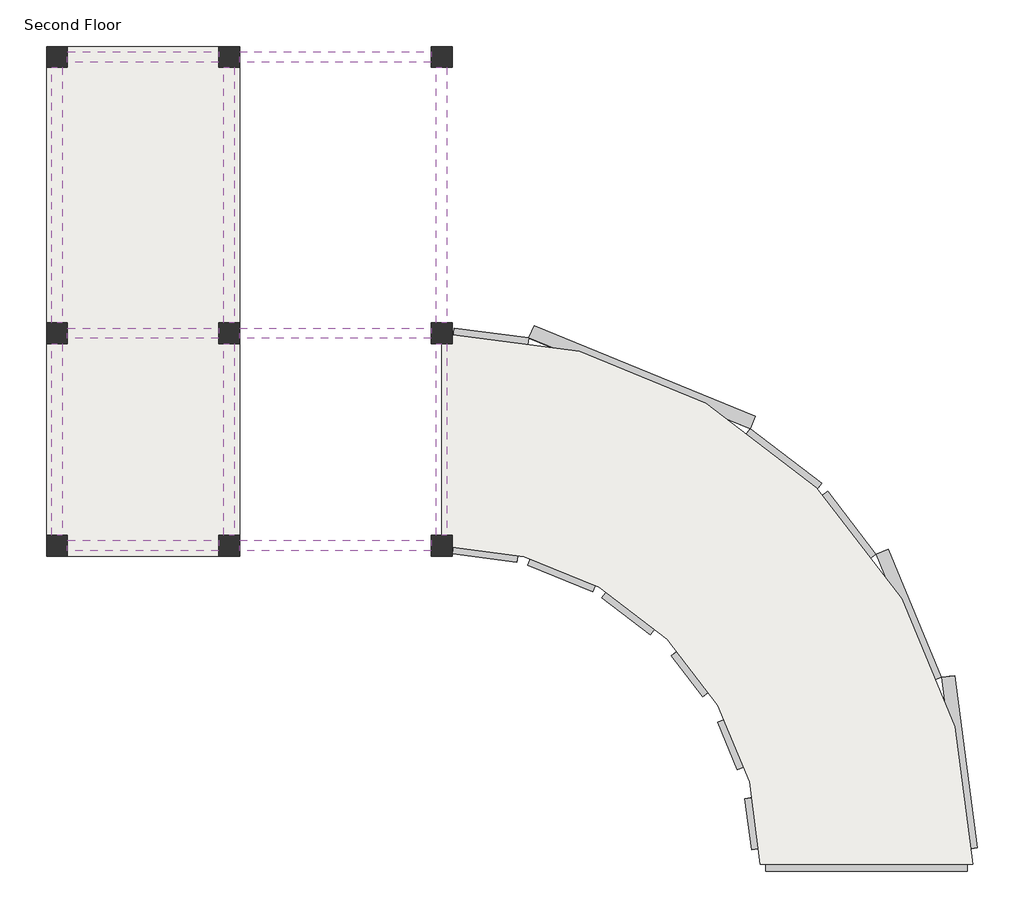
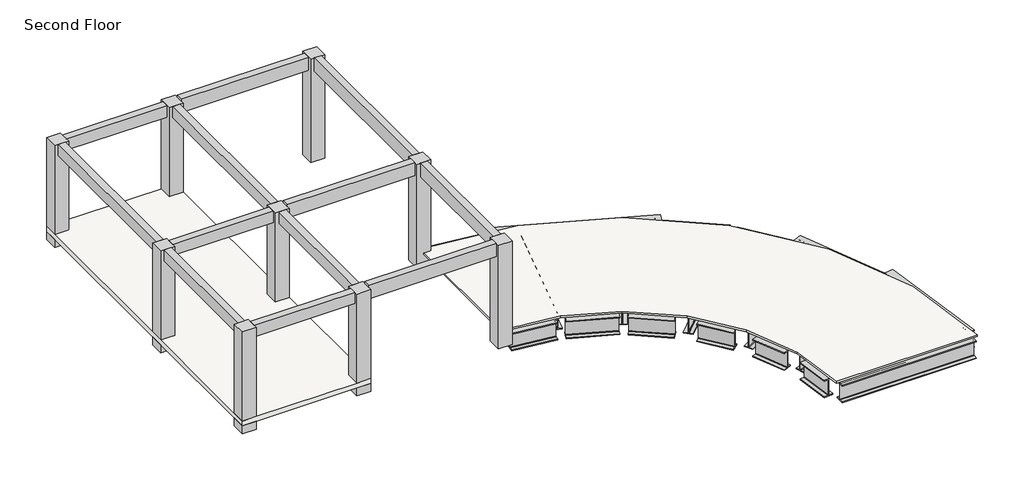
# One storey: 32 beams, 9 columns, 2 slabs.
"""IFC4 building model written with IfcOpenShell, lengths in millimetres."""

from ifc_helpers import new_model, si_unit, frame, origin, place, context, project, spatial, polyline, outline, extrude, faceted_brep, transform, mapped, element, save
from components import w760x350_97f56e91, w760x350_bd663f35, w760x350_76114712, w760x350_95a3d9c9, w760x350_c93c339d, w760x350_c870c244, w760x350_12c19f72, w760x350_7ec89315, w760x350_d8cf7d22, w760x350_981adb13, w760x350_85be410d, w760x350_863436a1, w760x350_0a7047ff, w760x350_eb8f40b6, w760x350_f451a6df, w760x350_05c1157e

model = new_model("IFC4")

# Units and contexts
model_context = context("Model", 3, world=origin())
ifc_project = project(units=[si_unit("LENGTHUNIT", "METRE", prefix="MILLI")], contexts=[model_context])

# Site, building, storey
site = spatial("IfcSite", under=ifc_project)
building = spatial("IfcBuilding", under=site)
storey = spatial("IfcBuildingStorey", under=building, Name="Second Floor", Elevation=3048.0)

# Beams
placement = place(None, origin())
element("IfcBeam", 1, ObjectType="M_Concrete-Rectangular Beam : 300 x 600mm", at=placement, inside=storey, context=model_context, shape_type="SweptSolid", body=[
    extrude(outline(polyline([(-16304.9035319, 4112.1636035), (-16304.9035319, 4412.1636035), (-10808.9035319, 4412.1636035), (-10808.9035319, 4112.1636035), (-16304.9035319, 4112.1636035)])), frame((0.0, 0.0, 6715.0), z_axis=(0.0, 0.0, 1.0), x_axis=(1.0, 0.0, 0.0)), (0.0, 0.0, 1.0), 600.0),
])
element("IfcBeam", 2, ObjectType="M_Concrete-Rectangular Beam : 300 x 600mm", at=placement, inside=storey, context=model_context, shape_type="SweptSolid", body=[
    extrude(outline(polyline([(-21244.300634, 4112.1636035), (-21244.300634, 4412.1636035), (-16904.9035319, 4412.1636035), (-16904.9035319, 4112.1636035), (-21244.300634, 4112.1636035)])), frame((0.0, 0.0, 6715.0), z_axis=(0.0, 0.0, 1.0), x_axis=(1.0, 0.0, 0.0)), (0.0, 0.0, 1.0), 510.0),
])
element("IfcBeam", 3, ObjectType="M_Concrete-Rectangular Beam : 300 x 600mm", at=placement, inside=storey, context=model_context, shape_type="SweptSolid", body=[
    extrude(outline(polyline([(-16304.9035319, -3812.8363965), (-16304.9035319, -3512.8363965), (-10808.9035319, -3512.8363965), (-10808.9035319, -3812.8363965), (-16304.9035319, -3812.8363965)])), frame((0.0, 0.0, 6715.0), z_axis=(0.0, 0.0, 1.0), x_axis=(1.0, 0.0, 0.0)), (0.0, 0.0, 1.0), 600.0),
])
element("IfcBeam", 4, ObjectType="M_Concrete-Rectangular Beam : 300 x 600mm", at=placement, inside=storey, context=model_context, shape_type="SweptSolid", body=[
    extrude(outline(polyline([(-21244.300634, -3812.8363965), (-21244.300634, -3512.8363965), (-16904.9035319, -3512.8363965), (-16904.9035319, -3812.8363965), (-21244.300634, -3812.8363965)])), frame((0.0, 0.0, 6715.0), z_axis=(0.0, 0.0, 1.0), x_axis=(1.0, 0.0, 0.0)), (0.0, 0.0, 1.0), 510.0),
])
element("IfcBeam", 5, ObjectType="M_Concrete-Rectangular Beam : 300 x 600mm", at=placement, inside=storey, context=model_context, shape_type="SweptSolid", body=[
    extrude(outline(polyline([(-16304.9035319, -9908.8363965), (-16304.9035319, -9608.8363965), (-10808.9035319, -9608.8363965), (-10808.9035319, -9908.8363965), (-16304.9035319, -9908.8363965)])), frame((0.0, 0.0, 6715.0), z_axis=(0.0, 0.0, 1.0), x_axis=(1.0, 0.0, 0.0)), (0.0, 0.0, 1.0), 600.0),
])
element("IfcBeam", 6, ObjectType="M_Concrete-Rectangular Beam : 300 x 600mm", at=placement, inside=storey, context=model_context, shape_type="SweptSolid", body=[
    extrude(outline(polyline([(-21244.300634, -9908.8363965), (-21244.300634, -9608.8363965), (-16904.9035319, -9608.8363965), (-16904.9035319, -9908.8363965), (-21244.300634, -9908.8363965)])), frame((0.0, 0.0, 6715.0), z_axis=(0.0, 0.0, 1.0), x_axis=(1.0, 0.0, 0.0)), (0.0, 0.0, 1.0), 510.0),
])
element("IfcBeam", 7, ObjectType="M_Concrete-Rectangular Beam : 300 x 600mm", at=placement, inside=storey, context=model_context, shape_type="SweptSolid", body=[
    extrude(outline(polyline([(-21394.300634, -3362.8363965), (-21694.300634, -3362.8363965), (-21694.300634, 3962.1636035), (-21394.300634, 3962.1636035), (-21394.300634, -3362.8363965)])), frame((0.0, 0.0, 6715.0), z_axis=(0.0, 0.0, 1.0), x_axis=(1.0, 0.0, 0.0)), (0.0, 0.0, 1.0), 510.0),
])
element("IfcBeam", 8, ObjectType="M_Concrete-Rectangular Beam : 300 x 600mm", at=placement, inside=storey, context=model_context, shape_type="SweptSolid", body=[
    extrude(outline(polyline([(-21394.300634, -9458.8363965), (-21694.300634, -9458.8363965), (-21694.300634, -3962.8363965), (-21394.300634, -3962.8363965), (-21394.300634, -9458.8363965)])), frame((0.0, 0.0, 6715.0), z_axis=(0.0, 0.0, 1.0), x_axis=(1.0, 0.0, 0.0)), (0.0, 0.0, 1.0), 510.0),
])
element("IfcBeam", 9, ObjectType="M_Concrete-Rectangular Beam : 300 x 600mm", at=placement, inside=storey, context=model_context, shape_type="SweptSolid", body=[
    extrude(outline(polyline([(-16454.9035319, -9458.8363965), (-16754.9035319, -9458.8363965), (-16754.9035319, -3962.8363965), (-16454.9035319, -3962.8363965), (-16454.9035319, -9458.8363965)])), frame((0.0, 0.0, 6715.0), z_axis=(0.0, 0.0, 1.0), x_axis=(1.0, 0.0, 0.0)), (0.0, 0.0, 1.0), 510.0),
])
element("IfcBeam", 10, ObjectType="M_Concrete-Rectangular Beam : 300 x 600mm", at=placement, inside=storey, context=model_context, shape_type="SweptSolid", body=[
    extrude(outline(polyline([(-16454.9035319, -3362.8363965), (-16754.9035319, -3362.8363965), (-16754.9035319, 3962.1636035), (-16454.9035319, 3962.1636035), (-16454.9035319, -3362.8363965)])), frame((0.0, 0.0, 6715.0), z_axis=(0.0, 0.0, 1.0), x_axis=(1.0, 0.0, 0.0)), (0.0, 0.0, 1.0), 510.0),
])
element("IfcBeam", 11, ObjectType="M_Concrete-Rectangular Beam : 300 x 600mm", at=placement, inside=storey, context=model_context, shape_type="SweptSolid", body=[
    extrude(outline(polyline([(-10358.9035319, -9458.8363965), (-10658.9035319, -9458.8363965), (-10658.9035319, -3962.8363965), (-10358.9035319, -3962.8363965), (-10358.9035319, -9458.8363965)])), frame((0.0, 0.0, 6715.0), z_axis=(0.0, 0.0, 1.0), x_axis=(1.0, 0.0, 0.0)), (0.0, 0.0, 1.0), 600.0),
])
element("IfcBeam", 12, ObjectType="M_Concrete-Rectangular Beam : 300 x 600mm", at=placement, inside=storey, context=model_context, shape_type="SweptSolid", body=[
    extrude(outline(polyline([(-10358.9035319, -3362.8363965), (-10658.9035319, -3362.8363965), (-10658.9035319, 3962.1636035), (-10358.9035319, 3962.1636035), (-10358.9035319, -3362.8363965)])), frame((0.0, 0.0, 6715.0), z_axis=(0.0, 0.0, 1.0), x_axis=(1.0, 0.0, 0.0)), (0.0, 0.0, 1.0), 600.0),
])
w760x350_shape = w760x350_97f56e91(model_context)
element("IfcBeam", 13, ObjectType="M_W-Wide Flange : W760X350", at=placement, inside=storey, context=model_context, shape_type="MappedRepresentation", body=[
    mapped(w760x350_shape, transform((3450.5648413, -13120.6352728, 2650.5), x_axis=(0.38268343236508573, -0.9238795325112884, 0.0), y_axis=(0.9238795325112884, 0.38268343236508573, 0.0), z_axis=(0.0, 0.0, 1.0))),
])
w760x350_2_shape = w760x350_bd663f35(model_context)
element("IfcBeam", 14, ObjectType="M_W-Wide Flange : W760X350", at=placement, inside=storey, context=model_context, shape_type="MappedRepresentation", body=[
    mapped(w760x350_2_shape, transform((-2853.5481928, -5739.9645819, 2650.5), x_axis=(0.7071067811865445, -0.7071067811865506, 0.0), y_axis=(0.7071067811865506, 0.7071067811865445, 0.0), z_axis=(0.0, 0.0, 1.0))),
])
w760x350_3_shape = w760x350_76114712(model_context)
element("IfcBeam", 15, ObjectType="M_W-Wide Flange : W760X350", at=placement, inside=storey, context=model_context, shape_type="MappedRepresentation", body=[
    mapped(w760x350_3_shape, transform((1478.3637176, -9704.6827239, 2650.5), x_axis=(0.6087614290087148, -0.7933533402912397, 0.0), y_axis=(0.7933533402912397, 0.6087614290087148, 0.0), z_axis=(0.0, 0.0, 1.0))),
])
w760x350_4_shape = w760x350_95a3d9c9(model_context)
element("IfcBeam", 16, ObjectType="M_W-Wide Flange : W760X350", at=placement, inside=storey, context=model_context, shape_type="MappedRepresentation", body=[
    mapped(w760x350_4_shape, transform((-8536.7024082, -3922.4816002, 2650.5), x_axis=(0.9914448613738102, -0.1305261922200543, 0.0), y_axis=(0.1305261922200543, 0.9914448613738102, 0.0), z_axis=(0.0, 0.0, 1.0))),
])
w760x350_5_shape = w760x350_c93c339d(model_context)
element("IfcBeam", 17, ObjectType="M_W-Wide Flange : W760X350", at=placement, inside=storey, context=model_context, shape_type="MappedRepresentation", body=[
    mapped(w760x350_5_shape, transform((-4752.0478576, -4925.7348849, 2650.5), x_axis=(0.9251619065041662, -0.37957271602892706, 0.0), y_axis=(0.37957271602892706, 0.9251619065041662, 0.0), z_axis=(0.0, 0.0, 1.0))),
])
w760x350_6_shape = w760x350_c870c244(model_context)
element("IfcBeam", 18, ObjectType="M_W-Wide Flange : W760X350", at=placement, inside=storey, context=model_context, shape_type="MappedRepresentation", body=[
    mapped(w760x350_6_shape, transform((-1332.8922259, -6893.6419593, 2650.5), x_axis=(0.7953971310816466, -0.6060886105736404, 0.0), y_axis=(0.6060886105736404, 0.7953971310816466, 0.0), z_axis=(0.0, 0.0, 1.0))),
])
w760x350_7_shape = w760x350_12c19f72(model_context)
element("IfcBeam", 19, ObjectType="M_W-Wide Flange : W760X350", at=placement, inside=storey, context=model_context, shape_type="MappedRepresentation", body=[
    mapped(w760x350_7_shape, transform((-5016.7075479, -11695.182511, 2650.5), x_axis=(-0.7953971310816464, 0.6060886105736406, 0.0), y_axis=(-0.6060886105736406, -0.7953971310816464, 0.0), z_axis=(0.0, 0.0, 1.0))),
])
w760x350_8_shape = w760x350_7ec89315(model_context)
element("IfcBeam", 20, ObjectType="M_W-Wide Flange : W760X350", at=placement, inside=storey, context=model_context, shape_type="MappedRepresentation", body=[
    mapped(w760x350_8_shape, transform((-7066.2790773, -10511.8618368, 2650.5), x_axis=(-0.9251619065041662, 0.37957271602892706, 0.0), y_axis=(-0.37957271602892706, -0.9251619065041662, 0.0), z_axis=(0.0, 0.0, 1.0))),
])
w760x350_9_shape = w760x350_d8cf7d22(model_context)
element("IfcBeam", 21, ObjectType="M_W-Wide Flange : W760X350", at=placement, inside=storey, context=model_context, shape_type="MappedRepresentation", body=[
    mapped(w760x350_9_shape, transform((-9325.5828576, -9914.6235187, 2650.5), x_axis=(-0.99144486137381, 0.13052619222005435, 0.0), y_axis=(-0.13052619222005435, -0.99144486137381, 0.0), z_axis=(0.0, 0.0, 1.0))),
])
w760x350_10_shape = w760x350_981adb13(model_context)
element("IfcBeam", 22, ObjectType="M_W-Wide Flange : W760X350", at=placement, inside=storey, context=model_context, shape_type="MappedRepresentation", body=[
    mapped(w760x350_10_shape, transform((-9325.5828576, -9914.6235187, 2650.5), x_axis=(0.9914448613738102, -0.1305261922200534, 0.0), y_axis=(0.1305261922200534, 0.9914448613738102, 0.0), z_axis=(0.0, 0.0, 1.0))),
])
w760x350_11_shape = w760x350_85be410d(model_context)
element("IfcBeam", 23, ObjectType="M_W-Wide Flange : W760X350", at=placement, inside=storey, context=model_context, shape_type="MappedRepresentation", body=[
    mapped(w760x350_11_shape, transform((-7353.381734, -7126.2687224, 2650.5), x_axis=(0.2588190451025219, 0.9659258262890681, 0.0), y_axis=(-0.9659258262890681, 0.2588190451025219, 0.0), z_axis=(0.0, 0.0, 1.0))),
])
w760x350_12_shape = w760x350_863436a1(model_context)
element("IfcBeam", 24, ObjectType="M_W-Wide Flange : W760X350", at=placement, inside=storey, context=model_context, shape_type="MappedRepresentation", body=[
    mapped(w760x350_12_shape, transform((-4464.9452009, -8311.3279993, 2650.5), x_axis=(0.5000000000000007, 0.8660254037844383, 0.0), y_axis=(-0.8660254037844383, 0.5000000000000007, 0.0), z_axis=(0.0, 0.0, 1.0))),
])
w760x350_13_shape = w760x350_0a7047ff(model_context)
element("IfcBeam", 25, ObjectType="M_W-Wide Flange : W760X350", at=placement, inside=storey, context=model_context, shape_type="MappedRepresentation", body=[
    mapped(w760x350_13_shape, transform((-1887.8576556, -10281.7905203, 2650.5), x_axis=(0.707106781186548, 0.7071067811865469, 0.0), y_axis=(-0.7071067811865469, 0.707106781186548, 0.0), z_axis=(0.0, 0.0, 1.0))),
])
element("IfcBeam", 26, ObjectType="M_W-Wide Flange : W760X350", at=placement, inside=storey, context=model_context, shape_type="MappedRepresentation", body=[
    mapped(w760x350_13_shape, transform((49.6781911, -12806.8363965, 2650.5), x_axis=(0.8660254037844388, 0.49999999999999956, 0.0), y_axis=(-0.49999999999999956, 0.8660254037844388, 0.0), z_axis=(0.0, 0.0, 1.0))),
])
element("IfcBeam", 27, ObjectType="M_W-Wide Flange : W760X350", at=placement, inside=storey, context=model_context, shape_type="MappedRepresentation", body=[
    mapped(w760x350_13_shape, transform((1267.6641423, -15747.3145986, 2650.5), x_axis=(0.9659258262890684, 0.2588190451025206, 0.0), y_axis=(-0.2588190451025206, 0.9659258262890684, 0.0), z_axis=(0.0, 0.0, 1.0))),
])
w760x350_14_shape = w760x350_eb8f40b6(model_context)
element("IfcBeam", 28, ObjectType="M_W-Wide Flange : W760X350", at=placement, inside=storey, context=model_context, shape_type="MappedRepresentation", body=[
    mapped(w760x350_14_shape, transform((-1520.6906541, -17719.5157223, 2650.5), x_axis=(-0.1305261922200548, 0.99144486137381, 0.0), y_axis=(-0.99144486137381, -0.1305261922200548, 0.0), z_axis=(0.0, 0.0, 1.0))),
])
element("IfcBeam", 29, ObjectType="M_W-Wide Flange : W760X350", at=placement, inside=storey, context=model_context, shape_type="MappedRepresentation", body=[
    mapped(w760x350_14_shape, transform((-2133.222508, -15433.5157223, 2650.5), x_axis=(-0.3826834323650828, 0.9238795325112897, 0.0), y_axis=(-0.9238795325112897, -0.3826834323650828, 0.0), z_axis=(0.0, 0.0, 1.0))),
])
element("IfcBeam", 30, ObjectType="M_W-Wide Flange : W760X350", at=placement, inside=storey, context=model_context, shape_type="MappedRepresentation", body=[
    mapped(w760x350_14_shape, transform((-3316.5431822, -13383.9441929, 2650.5), x_axis=(-0.6087614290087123, 0.7933533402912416, 0.0), y_axis=(-0.7933533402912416, -0.6087614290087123, 0.0), z_axis=(0.0, 0.0, 1.0))),
])
w760x350_15_shape = w760x350_f451a6df(model_context)
element("IfcBeam", 31, ObjectType="M_W-Wide Flange : W760X350", at=placement, inside=storey, context=model_context, shape_type="MappedRepresentation", body=[
    mapped(w760x350_15_shape, transform((4471.4512645, -16930.6352728, 2650.5), x_axis=(0.13052619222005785, -0.9914448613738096, 0.0), y_axis=(0.9914448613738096, 0.13052619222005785, 0.0), z_axis=(0.0, 0.0, 1.0))),
])
w760x350_16_shape = w760x350_05c1157e(model_context)
element("IfcBeam", 32, ObjectType="M_W-Wide Flange : W760X350", at=placement, inside=storey, context=model_context, shape_type="MappedRepresentation", body=[
    mapped(w760x350_16_shape, transform((1683.0964681, -18902.8363965, 2650.5), x_axis=(-1.0, 0.0, 0.0), y_axis=(0.0, -1.0, 0.0), z_axis=(0.0, 0.0, 1.0))),
])

# Columns
element("IfcColumn", 33, ObjectType="M_Concrete-Rectangular-Column : 600 x 600mm", at=placement, inside=storey, context=model_context, shape_type="Brep", body=[
    faceted_brep([(-21844.300634, -10058.8363965, 2590.0), (-21844.300634, -9458.8363965, 2590.0), (-21244.300634, -9458.8363965, 2590.0), (-21244.300634, -10058.8363965, 2590.0), (-21844.300634, -9458.8363965, 2958.0), (-21844.300634, -10058.8363965, 2958.0), (-21244.300634, -10058.8363965, 2958.0), (-21244.300634, -9908.8363965, 2958.0), (-21244.300634, -9608.8363965, 2958.0), (-21244.300634, -9458.8363965, 2958.0), (-21394.300634, -9458.8363965, 2958.0), (-21694.300634, -9458.8363965, 2958.0)], [[[0, 1, 2, 3]], [[4, 5, 6, 7, 8, 9, 10, 11]], [[1, 0, 5, 4]], [[2, 1, 4, 11, 10, 9]], [[3, 2, 9, 8, 7, 6]], [[0, 3, 6, 5]]]),
    faceted_brep([(-21844.300634, -10058.8363965, 7225.0), (-21844.300634, -9458.8363965, 7225.0), (-21844.300634, -9458.8363965, 3168.0), (-21844.300634, -10058.8363965, 3168.0), (-21244.300634, -9458.8363965, 7225.0), (-21244.300634, -9458.8363965, 3168.0), (-21244.300634, -10058.8363965, 7225.0), (-21244.300634, -10058.8363965, 3168.0)], [[[0, 1, 2, 3]], [[1, 4, 5, 2]], [[4, 6, 7, 5]], [[6, 0, 3, 7]], [[1, 0, 6, 4]], [[3, 2, 5, 7]]]),
])
element("IfcColumn", 34, ObjectType="M_Concrete-Rectangular-Column : 600 x 600mm", at=placement, inside=storey, context=model_context, shape_type="Brep", body=[
    faceted_brep([(-21844.300634, -3962.8363965, 2590.0), (-21844.300634, -3362.8363965, 2590.0), (-21244.300634, -3362.8363965, 2590.0), (-21244.300634, -3962.8363965, 2590.0), (-21844.300634, -3362.8363965, 2958.0), (-21844.300634, -3962.8363965, 2958.0), (-21694.300634, -3962.8363965, 2958.0), (-21394.300634, -3962.8363965, 2958.0), (-21244.300634, -3962.8363965, 2958.0), (-21244.300634, -3812.8363965, 2958.0), (-21244.300634, -3512.8363965, 2958.0), (-21244.300634, -3362.8363965, 2958.0), (-21394.300634, -3362.8363965, 2958.0), (-21694.300634, -3362.8363965, 2958.0)], [[[0, 1, 2, 3]], [[4, 5, 6, 7, 8, 9, 10, 11, 12, 13]], [[1, 0, 5, 4]], [[2, 1, 4, 13, 12, 11]], [[3, 2, 11, 10, 9, 8]], [[0, 3, 8, 7, 6, 5]]]),
    faceted_brep([(-21844.300634, -3962.8363965, 7225.0), (-21844.300634, -3362.8363965, 7225.0), (-21844.300634, -3362.8363965, 3168.0), (-21844.300634, -3962.8363965, 3168.0), (-21244.300634, -3362.8363965, 7225.0), (-21244.300634, -3362.8363965, 3168.0), (-21244.300634, -3962.8363965, 7225.0), (-21244.300634, -3962.8363965, 3168.0)], [[[0, 1, 2, 3]], [[1, 4, 5, 2]], [[4, 6, 7, 5]], [[6, 0, 3, 7]], [[1, 0, 6, 4]], [[3, 2, 5, 7]]]),
])
element("IfcColumn", 35, ObjectType="M_Concrete-Rectangular-Column : 600 x 600mm", at=placement, inside=storey, context=model_context, shape_type="Brep", body=[
    faceted_brep([(-21844.300634, 3962.1636035, 2590.0), (-21844.300634, 4562.1636035, 2590.0), (-21244.300634, 4562.1636035, 2590.0), (-21244.300634, 3962.1636035, 2590.0), (-21844.300634, 4562.1636035, 2958.0), (-21844.300634, 3962.1636035, 2958.0), (-21694.300634, 3962.1636035, 2958.0), (-21394.300634, 3962.1636035, 2958.0), (-21244.300634, 3962.1636035, 2958.0), (-21244.300634, 4112.1636035, 2958.0), (-21244.300634, 4412.1636035, 2958.0), (-21244.300634, 4562.1636035, 2958.0)], [[[0, 1, 2, 3]], [[4, 5, 6, 7, 8, 9, 10, 11]], [[1, 0, 5, 4]], [[2, 1, 4, 11]], [[3, 2, 11, 10, 9, 8]], [[0, 3, 8, 7, 6, 5]]]),
    faceted_brep([(-21844.300634, 3962.1636035, 7225.0), (-21844.300634, 4562.1636035, 7225.0), (-21844.300634, 4562.1636035, 3168.0), (-21844.300634, 3962.1636035, 3168.0), (-21244.300634, 4562.1636035, 7225.0), (-21244.300634, 4562.1636035, 3168.0), (-21244.300634, 3962.1636035, 7225.0), (-21244.300634, 3962.1636035, 3168.0)], [[[0, 1, 2, 3]], [[1, 4, 5, 2]], [[4, 6, 7, 5]], [[6, 0, 3, 7]], [[1, 0, 6, 4]], [[3, 2, 5, 7]]]),
])
element("IfcColumn", 36, ObjectType="M_Concrete-Rectangular-Column : 600 x 600mm", at=placement, inside=storey, context=model_context, shape_type="Brep", body=[
    faceted_brep([(-16904.9035319, -10058.8363965, 2590.0), (-16904.9035319, -9458.8363965, 2590.0), (-16304.9035319, -9458.8363965, 2590.0), (-16304.9035319, -10058.8363965, 2590.0), (-16904.9035319, -9458.8363965, 2958.0), (-16904.9035319, -9608.8363965, 2958.0), (-16904.9035319, -9908.8363965, 2958.0), (-16904.9035319, -10058.8363965, 2958.0), (-16304.9035319, -10058.8363965, 2958.0), (-16304.9035319, -9458.8363965, 2958.0), (-16454.9035319, -9458.8363965, 2958.0), (-16754.9035319, -9458.8363965, 2958.0)], [[[0, 1, 2, 3]], [[4, 5, 6, 7, 8, 9, 10, 11]], [[1, 0, 7, 6, 5, 4]], [[2, 1, 4, 11, 10, 9]], [[3, 2, 9, 8]], [[0, 3, 8, 7]]]),
    faceted_brep([(-16904.9035319, -10058.8363965, 7225.0), (-16904.9035319, -9458.8363965, 7225.0), (-16904.9035319, -9458.8363965, 3168.0), (-16904.9035319, -10058.8363965, 3168.0), (-16304.9035319, -9458.8363965, 7225.0), (-16304.9035319, -9458.8363965, 3168.0), (-16304.9035319, -10058.8363965, 7225.0), (-16304.9035319, -10058.8363965, 3168.0)], [[[0, 1, 2, 3]], [[1, 4, 5, 2]], [[4, 6, 7, 5]], [[6, 0, 3, 7]], [[1, 0, 6, 4]], [[3, 2, 5, 7]]]),
])
element("IfcColumn", 37, ObjectType="M_Concrete-Rectangular-Column : 600 x 600mm", at=placement, inside=storey, context=model_context, shape_type="Brep", body=[
    faceted_brep([(-16904.9035319, -3962.8363965, 2590.0), (-16904.9035319, -3362.8363965, 2590.0), (-16304.9035319, -3362.8363965, 2590.0), (-16304.9035319, -3962.8363965, 2590.0), (-16904.9035319, -3362.8363965, 2958.0), (-16904.9035319, -3512.8363965, 2958.0), (-16904.9035319, -3812.8363965, 2958.0), (-16904.9035319, -3962.8363965, 2958.0), (-16754.9035319, -3962.8363965, 2958.0), (-16454.9035319, -3962.8363965, 2958.0), (-16304.9035319, -3962.8363965, 2958.0), (-16304.9035319, -3362.8363965, 2958.0), (-16454.9035319, -3362.8363965, 2958.0), (-16754.9035319, -3362.8363965, 2958.0)], [[[0, 1, 2, 3]], [[4, 5, 6, 7, 8, 9, 10, 11, 12, 13]], [[1, 0, 7, 6, 5, 4]], [[2, 1, 4, 13, 12, 11]], [[3, 2, 11, 10]], [[0, 3, 10, 9, 8, 7]]]),
    faceted_brep([(-16904.9035319, -3962.8363965, 7225.0), (-16904.9035319, -3362.8363965, 7225.0), (-16904.9035319, -3362.8363965, 3168.0), (-16904.9035319, -3962.8363965, 3168.0), (-16304.9035319, -3362.8363965, 7225.0), (-16304.9035319, -3362.8363965, 3168.0), (-16304.9035319, -3962.8363965, 7225.0), (-16304.9035319, -3962.8363965, 3168.0)], [[[0, 1, 2, 3]], [[1, 4, 5, 2]], [[4, 6, 7, 5]], [[6, 0, 3, 7]], [[1, 0, 6, 4]], [[3, 2, 5, 7]]]),
])
element("IfcColumn", 38, ObjectType="M_Concrete-Rectangular-Column : 600 x 600mm", at=placement, inside=storey, context=model_context, shape_type="Brep", body=[
    faceted_brep([(-16904.9035319, 3962.1636035, 2590.0), (-16904.9035319, 4562.1636035, 2590.0), (-16304.9035319, 4562.1636035, 2590.0), (-16304.9035319, 3962.1636035, 2590.0), (-16904.9035319, 4562.1636035, 2958.0), (-16904.9035319, 4412.1636035, 2958.0), (-16904.9035319, 4112.1636035, 2958.0), (-16904.9035319, 3962.1636035, 2958.0), (-16754.9035319, 3962.1636035, 2958.0), (-16454.9035319, 3962.1636035, 2958.0), (-16304.9035319, 3962.1636035, 2958.0), (-16304.9035319, 4562.1636035, 2958.0)], [[[0, 1, 2, 3]], [[4, 5, 6, 7, 8, 9, 10, 11]], [[1, 0, 7, 6, 5, 4]], [[2, 1, 4, 11]], [[3, 2, 11, 10]], [[0, 3, 10, 9, 8, 7]]]),
    faceted_brep([(-16904.9035319, 3962.1636035, 7225.0), (-16904.9035319, 4562.1636035, 7225.0), (-16904.9035319, 4562.1636035, 3168.0), (-16904.9035319, 3962.1636035, 3168.0), (-16304.9035319, 4562.1636035, 7225.0), (-16304.9035319, 4562.1636035, 3168.0), (-16304.9035319, 3962.1636035, 7225.0), (-16304.9035319, 3962.1636035, 3168.0)], [[[0, 1, 2, 3]], [[1, 4, 5, 2]], [[4, 6, 7, 5]], [[6, 0, 3, 7]], [[1, 0, 6, 4]], [[3, 2, 5, 7]]]),
])
element("IfcColumn", 39, ObjectType="M_Concrete-Rectangular-Column : 600 x 600mm", at=placement, inside=storey, context=model_context, shape_type="Brep", body=[
    faceted_brep([(-10808.9035319, -10058.8363965, 2590.0), (-10808.9035319, -9458.8363965, 2590.0), (-10208.9035319, -9458.8363965, 2590.0), (-10208.9035319, -10058.8363965, 2590.0), (-10808.9035319, -10058.8363965, 7315.0), (-10808.9035319, -9458.8363965, 7315.0), (-10208.9035319, -9458.8363965, 7315.0), (-10208.9035319, -9458.8363965, 3168.0), (-10508.9035319, -9458.8363965, 3168.0), (-10508.9035319, -9458.8363965, 3093.0), (-10208.9035319, -9458.8363965, 3093.0), (-10208.9035319, -9798.3321458, 3093.0), (-10208.9035319, -9798.3321458, 3168.0), (-10208.9035319, -10058.8363965, 7315.0), (-10508.9035319, -9758.8363965, 3093.0), (-10508.9035319, -9758.8363965, 3168.0)], [[[0, 1, 2, 3]], [[1, 0, 4, 5]], [[2, 1, 5, 6, 7, 8, 9, 10]], [[3, 2, 10, 11, 12, 7, 6, 13]], [[0, 3, 13, 4]], [[5, 4, 13, 6]], [[9, 14, 11, 10]], [[12, 15, 8, 7]], [[14, 15, 12, 11]], [[15, 14, 9, 8]]]),
])
element("IfcColumn", 40, ObjectType="M_Concrete-Rectangular-Column : 600 x 600mm", at=placement, inside=storey, context=model_context, shape_type="Brep", body=[
    faceted_brep([(-10808.9035319, -3962.8363965, 2590.0), (-10808.9035319, -3362.8363965, 2590.0), (-10208.9035319, -3362.8363965, 2590.0), (-10208.9035319, -3962.8363965, 2590.0), (-10808.9035319, -3962.8363965, 7315.0), (-10808.9035319, -3362.8363965, 7315.0), (-10208.9035319, -3362.8363965, 7315.0), (-10208.9035319, -3962.8363965, 7315.0), (-10208.9035319, -3962.8363965, 3168.0), (-10208.9035319, -3702.3321458, 3168.0), (-10208.9035319, -3702.3321458, 3093.0), (-10208.9035319, -3962.8363965, 3093.0), (-10508.9035319, -3962.8363965, 3093.0), (-10508.9035319, -3962.8363965, 3168.0), (-10508.9035319, -3662.8363965, 3093.0), (-10508.9035319, -3662.8363965, 3168.0)], [[[0, 1, 2, 3]], [[1, 0, 4, 5]], [[2, 1, 5, 6]], [[3, 2, 6, 7, 8, 9, 10, 11]], [[0, 3, 11, 12, 13, 8, 7, 4]], [[5, 4, 7, 6]], [[14, 12, 11, 10]], [[15, 9, 8, 13]], [[15, 14, 10, 9]], [[14, 15, 13, 12]]]),
])
element("IfcColumn", 41, ObjectType="M_Concrete-Rectangular-Column : 600 x 600mm", at=placement, inside=storey, context=model_context, shape_type="SweptSolid", body=[
    extrude(outline(polyline([(-10808.9035319, 3962.1636035), (-10808.9035319, 4562.1636035), (-10208.9035319, 4562.1636035), (-10208.9035319, 3962.1636035), (-10808.9035319, 3962.1636035)])), frame((0.0, 0.0, 2590.0), z_axis=(0.0, 0.0, 1.0), x_axis=(1.0, 0.0, 0.0)), (0.0, 0.0, 1.0), 4725.0),
])

# Slabs
element("IfcSlab", 42, ObjectType="160mm Concrete With 50mm Metal Deck", at=placement, inside=storey, context=model_context, shape_type="Brep", body=[
    faceted_brep([(-16304.9035319, 4562.1636035, 2958.0), (-16304.9035319, 3962.1636035, 2958.0), (-16304.9035319, -3362.8363965, 2958.0), (-16304.9035319, -3962.8363965, 2958.0), (-16304.9035319, -9458.8363965, 2958.0), (-16304.9035319, -10058.8363965, 2958.0), (-16904.9035319, -10058.8363965, 2958.0), (-21244.300634, -10058.8363965, 2958.0), (-21844.300634, -10058.8363965, 2958.0), (-21844.300634, -9458.8363965, 2958.0), (-21844.300634, -3962.8363965, 2958.0), (-21844.300634, -3362.8363965, 2958.0), (-21844.300634, 3962.1636035, 2958.0), (-21844.300634, 4562.1636035, 2958.0), (-21244.300634, 4562.1636035, 2958.0), (-16904.9035319, 4562.1636035, 2958.0), (-16304.9035319, 4562.1636035, 3168.0), (-16904.9035319, 4562.1636035, 3168.0), (-21244.300634, 4562.1636035, 3168.0), (-21844.300634, 4562.1636035, 3168.0), (-21844.300634, 3962.1636035, 3168.0), (-21844.300634, -3362.8363965, 3168.0), (-21844.300634, -3962.8363965, 3168.0), (-21844.300634, -9458.8363965, 3168.0), (-21844.300634, -10058.8363965, 3168.0), (-21244.300634, -10058.8363965, 3168.0), (-16904.9035319, -10058.8363965, 3168.0), (-16304.9035319, -10058.8363965, 3168.0), (-16304.9035319, -9458.8363965, 3168.0), (-16304.9035319, -3962.8363965, 3168.0), (-16304.9035319, -3362.8363965, 3168.0), (-16304.9035319, 3962.1636035, 3168.0)], [[[0, 1, 2, 3, 4, 5, 6, 7, 8, 9, 10, 11, 12, 13, 14, 15]], [[16, 17, 18, 19, 20, 21, 22, 23, 24, 25, 26, 27, 28, 29, 30, 31]], [[5, 4, 3, 2, 1, 0, 16, 31, 30, 29, 28, 27]], [[8, 7, 6, 5, 27, 26, 25, 24]], [[13, 12, 11, 10, 9, 8, 24, 23, 22, 21, 20, 19]], [[0, 15, 14, 13, 19, 18, 17, 16]]]),
])
element("IfcSlab", 43, ObjectType="75mm Metal Roof Deck", at=placement, inside=storey, context=model_context, shape_type="Brep", body=[
    faceted_brep([(-10508.9035319, -3662.8363965, 3093.0), (-10208.9035319, -3702.3321458, 3093.0), (-6564.5012845, -4182.1268039, 3093.0), (-2939.5944307, -5669.3429659, 3093.0), (242.5168812, -8094.0957697, 3093.0), (2689.3236218, -11282.8363965, 3093.0), (4211.8060608, -14958.4341491, 3093.0), (4731.0964681, -18902.8363965, 3093.0), (-1364.9035319, -18902.8363965, 3093.0), (-1676.4777763, -16536.1950481, 3093.0), (-2589.9672396, -14330.8363965, 3093.0), (-4043.1191247, -12437.0519893, 3093.0), (-5990.2959711, -10953.3130327, 3093.0), (-8142.2621834, -10070.4106409, 3093.0), (-10208.9035319, -9798.3321458, 3093.0), (-10508.9035319, -9758.8363965, 3093.0), (-10508.9035319, -9458.8363965, 3093.0), (-10508.9035319, -3962.8363965, 3093.0), (-10508.9035319, -3662.8363965, 3168.0), (-10508.9035319, -3962.8363965, 3168.0), (-10508.9035319, -9458.8363965, 3168.0), (-10508.9035319, -9758.8363965, 3168.0), (-10208.9035319, -9798.3321458, 3168.0), (-8142.2621834, -10070.4106409, 3168.0), (-5990.2959711, -10953.3130327, 3168.0), (-4043.1191247, -12437.0519893, 3168.0), (-2589.9672396, -14330.8363965, 3168.0), (-1676.4777763, -16536.1950481, 3168.0), (-1364.9035319, -18902.8363965, 3168.0), (4731.0964681, -18902.8363965, 3168.0), (4211.8060608, -14958.4341491, 3168.0), (2689.3236218, -11282.8363965, 3168.0), (242.5168812, -8094.0957697, 3168.0), (-2939.5944307, -5669.3429659, 3168.0), (-6564.5012845, -4182.1268039, 3168.0), (-10208.9035319, -3702.3321458, 3168.0)], [[[0, 1, 2, 3, 4, 5, 6, 7, 8, 9, 10, 11, 12, 13, 14, 15, 16, 17]], [[18, 19, 20, 21, 22, 23, 24, 25, 26, 27, 28, 29, 30, 31, 32, 33, 34, 35]], [[2, 1, 0, 18, 35, 34]], [[3, 2, 34, 33]], [[4, 3, 33, 32]], [[5, 4, 32, 31]], [[6, 5, 31, 30]], [[7, 6, 30, 29]], [[8, 7, 29, 28]], [[9, 8, 28, 27]], [[10, 9, 27, 26]], [[11, 10, 26, 25]], [[12, 11, 25, 24]], [[13, 12, 24, 23]], [[15, 14, 13, 23, 22, 21]], [[0, 17, 16, 15, 21, 20, 19, 18]]]),
])

save(model, "model.ifc")
